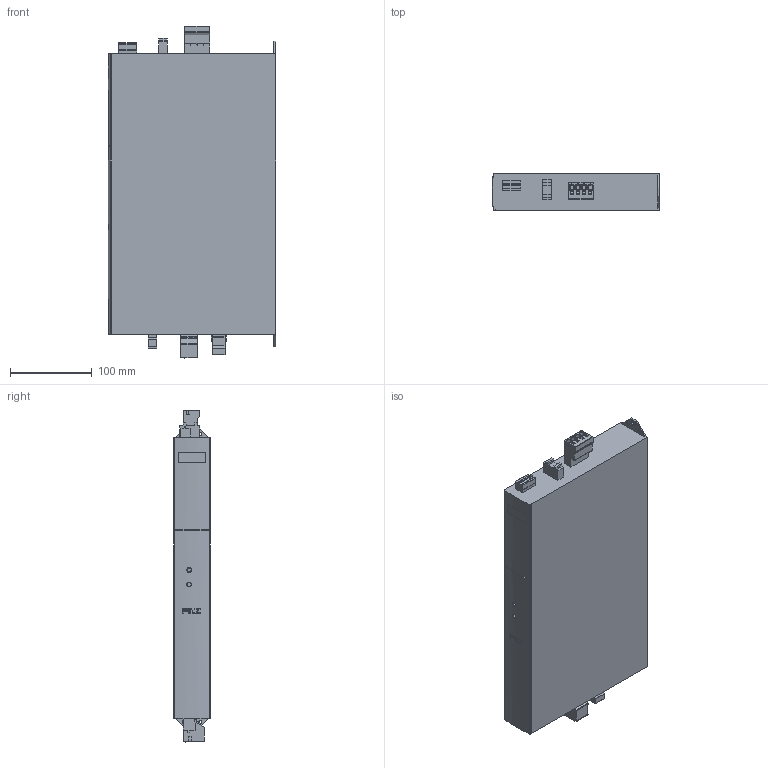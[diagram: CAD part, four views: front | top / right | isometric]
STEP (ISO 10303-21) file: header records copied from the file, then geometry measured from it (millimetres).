
FILE_DESCRIPTION((''),'2;1');
FILE_NAME('2030075','2020-12-09T07:29:44',('S.Mayer'),(''),'CREO PARAMETRIC BY PTC INC, 2019292','CREO PARAMETRIC BY PTC INC, 2019292','');
FILE_SCHEMA(('AUTOMOTIVE_DESIGN { 1 0 10303 214 1 1 1 1 }'));
Length unit declared in the file: millimetre
Products named in the file (1): 2030075
Bounding box: 204 x 45 x 405.29 mm (x, y, z)
Volume: 3186447.4 mm3; surface area: 203822.4 mm2
Topology: 1 solids, 1 shells, 451 faces, 1198 edges, 788 vertices
Faces by surface type: plane 320, cylinder 101, cone 22, bspline 4, sphere 4
Entity records: 19047 total; most frequent: CARTESIAN_POINT 7512, ORIENTED_EDGE 2386, DIRECTION 2242, EDGE_CURVE 1193, VECTOR 868, LINE 868, VERTEX_POINT 784, AXIS2_PLACEMENT_3D 687
